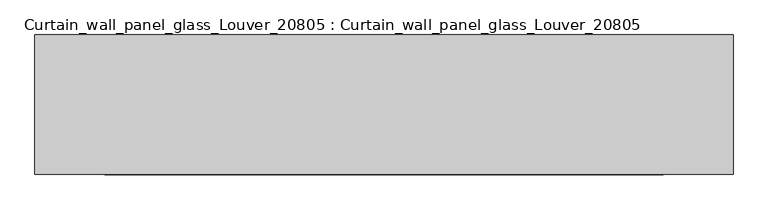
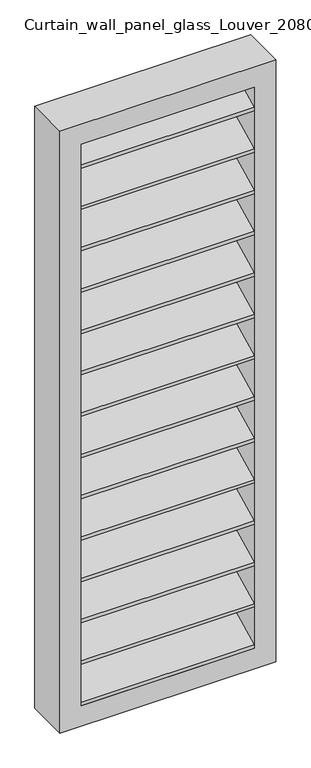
"""IFC4 building model written with IfcOpenShell, lengths in millimetres: plate geometry, Curtain_wall_panel_glass_Louver_20805 : Curtain_wall_panel_glass_Louver_20805."""

from ifc_helpers import new_model, si_unit, frame, origin, place, context, project, spatial, polyline, outline, extrude, source, transform, mapped, element, save


def curtain_wall_panel_glass_louver_20805_curtain_wall_panel_126ace13(model_context):
    return source(origin(), model_context, "Body", "SweptSolid", [
        extrude(outline(polyline([(200.0, 199.3849981), (0.0, 100.0), (0.0, 116.7499328), (200.0, 216.1349309), (200.0, 199.3849981)])), frame((-400.75, 0.0, 0.0), z_axis=(1.0, 0.0, 0.0), x_axis=(0.0, 1.0, 0.0)), (0.0, 0.0, 1.0), 801.5),
        extrude(outline(polyline([(200.0, 2833.2500672), (0.0, 2733.8650691), (0.0, 2750.6150019), (200.0, 2850.0), (200.0, 2833.2500672)])), frame((-400.75, 0.0, 0.0), z_axis=(1.0, 0.0, 0.0), x_axis=(0.0, 1.0, 0.0)), (0.0, 0.0, 1.0), 801.5),
        extrude(outline(polyline([(200.0, 401.9900034), (0.0, 302.6050053), (0.0, 319.3549382), (200.0, 418.7399363), (200.0, 401.9900034)])), frame((-400.75, 0.0, 0.0), z_axis=(1.0, 0.0, 0.0), x_axis=(0.0, 1.0, 0.0)), (0.0, 0.0, 1.0), 801.5),
        extrude(outline(polyline([(200.0, 604.5950087), (0.0, 505.2100106), (0.0, 521.9599435), (200.0, 621.3449416), (200.0, 604.5950087)])), frame((-400.75, 0.0, 0.0), z_axis=(1.0, 0.0, 0.0), x_axis=(0.0, 1.0, 0.0)), (0.0, 0.0, 1.0), 801.5),
        extrude(outline(polyline([(200.0, 807.200014), (0.0, 707.8150159), (0.0, 724.5649488), (200.0, 823.9499469), (200.0, 807.200014)])), frame((-400.75, 0.0, 0.0), z_axis=(1.0, 0.0, 0.0), x_axis=(0.0, 1.0, 0.0)), (0.0, 0.0, 1.0), 801.5),
        extrude(outline(polyline([(200.0, 1009.8050193), (0.0, 910.4200212), (0.0, 927.1699541), (200.0, 1026.5549522), (200.0, 1009.8050193)])), frame((-400.75, 0.0, 0.0), z_axis=(1.0, 0.0, 0.0), x_axis=(0.0, 1.0, 0.0)), (0.0, 0.0, 1.0), 801.5),
        extrude(outline(polyline([(200.0, 1212.4100247), (0.0, 1113.0250266), (0.0, 1129.7749594), (200.0, 1229.1599575), (200.0, 1212.4100247)])), frame((-400.75, 0.0, 0.0), z_axis=(1.0, 0.0, 0.0), x_axis=(0.0, 1.0, 0.0)), (0.0, 0.0, 1.0), 801.5),
        extrude(outline(polyline([(200.0, 1415.01503), (0.0, 1315.6300319), (0.0, 1332.3799647), (200.0, 1431.7649628), (200.0, 1415.01503)])), frame((-400.75, 0.0, 0.0), z_axis=(1.0, 0.0, 0.0), x_axis=(0.0, 1.0, 0.0)), (0.0, 0.0, 1.0), 801.5),
        extrude(outline(polyline([(200.0, 1617.6200353), (0.0, 1518.2350372), (0.0, 1534.98497), (200.0, 1634.3699681), (200.0, 1617.6200353)])), frame((-400.75, 0.0, 0.0), z_axis=(1.0, 0.0, 0.0), x_axis=(0.0, 1.0, 0.0)), (0.0, 0.0, 1.0), 801.5),
        extrude(outline(polyline([(200.0, 1820.2250406), (0.0, 1720.8400425), (0.0, 1737.5899753), (200.0, 1836.9749734), (200.0, 1820.2250406)])), frame((-400.75, 0.0, 0.0), z_axis=(1.0, 0.0, 0.0), x_axis=(0.0, 1.0, 0.0)), (0.0, 0.0, 1.0), 801.5),
        extrude(outline(polyline([(200.0, 2022.8300459), (0.0, 1923.4450478), (0.0, 1940.1949807), (200.0, 2039.5799788), (200.0, 2022.8300459)])), frame((-400.75, 0.0, 0.0), z_axis=(1.0, 0.0, 0.0), x_axis=(0.0, 1.0, 0.0)), (0.0, 0.0, 1.0), 801.5),
        extrude(outline(polyline([(200.0, 2225.4350512), (0.0, 2126.0500531), (0.0, 2142.799986), (200.0, 2242.1849841), (200.0, 2225.4350512)])), frame((-400.75, 0.0, 0.0), z_axis=(1.0, 0.0, 0.0), x_axis=(0.0, 1.0, 0.0)), (0.0, 0.0, 1.0), 801.5),
        extrude(outline(polyline([(200.0, 2428.0400565), (0.0, 2328.6550584), (0.0, 2345.4049913), (200.0, 2444.7899894), (200.0, 2428.0400565)])), frame((-400.75, 0.0, 0.0), z_axis=(1.0, 0.0, 0.0), x_axis=(0.0, 1.0, 0.0)), (0.0, 0.0, 1.0), 801.5),
        extrude(outline(polyline([(200.0, 2630.6450618), (0.0, 2531.2600637), (0.0, 2548.0099966), (200.0, 2647.3949947), (200.0, 2630.6450618)])), frame((-400.75, 0.0, 0.0), z_axis=(1.0, 0.0, 0.0), x_axis=(0.0, 1.0, 0.0)), (0.0, 0.0, 1.0), 801.5),
        extrude(outline(polyline([(2950.0, -500.75), (0.0, -500.75), (0.0, 500.75), (2950.0, 500.75), (2950.0, -500.75)]), holes=[polyline([(2850.0, -400.75), (2850.0, 400.75), (100.0, 400.75), (100.0, -400.75), (2850.0, -400.75)])]), frame((0.0, 0.0, 0.0), z_axis=(0.0, 1.0, 0.0), x_axis=(0.0, 0.0, 1.0)), (0.0, 0.0, 1.0), 200.0),
    ])


if __name__ == "__main__":
    model = new_model("IFC4")
    model_context = context("Model", 3, world=origin())
    ifc_project = project(units=[si_unit("LENGTHUNIT", "METRE", prefix="MILLI")], contexts=[model_context])
    site = spatial("IfcSite", under=ifc_project)
    building = spatial("IfcBuilding", under=site)
    placement = place(None, origin())
    curtain_wall_panel_glass_louver_20805_curtain_wall_panel_shape = curtain_wall_panel_glass_louver_20805_curtain_wall_panel_126ace13(model_context)
    element("IfcPlate", 1, ObjectType="Curtain_wall_panel_glass_Louver_20805 : Curtain_wall_panel_glass_Louver_20805", at=placement, inside=building, context=model_context, shape_type="MappedRepresentation", body=[
        mapped(curtain_wall_panel_glass_louver_20805_curtain_wall_panel_shape, transform((0.0, 0.0, 0.0), x_axis=(1.0, 0.0, 0.0), y_axis=(0.0, 1.0, 0.0), z_axis=(0.0, 0.0, 1.0))),
    ])
    save(model, "model.ifc")
